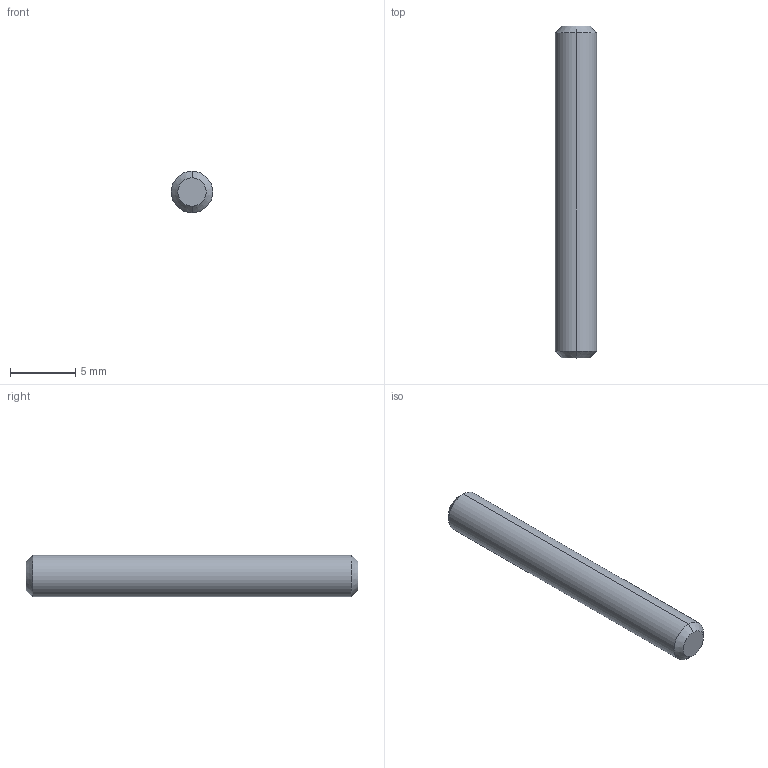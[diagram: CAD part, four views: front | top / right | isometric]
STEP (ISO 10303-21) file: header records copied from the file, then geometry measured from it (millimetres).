
FILE_DESCRIPTION (( 'STEP AP203' ), '1' );
FILE_NAME ('DP9-1000.step', '2014-02-28T00:06:45', ( '' ), ( '' ), 'SwSTEP 2.0', 'SolidWorks 2009', '' );
FILE_SCHEMA (( 'CONFIG_CONTROL_DESIGN' ));
Length unit declared in the file: inch
Products named in the file (1): DP9-1000
Bounding box: 3.18 x 25.4 x 3.18 mm (x, y, z)
Volume: 199.4 mm3; surface area: 263 mm2
Topology: 1 solids, 1 shells, 8 faces, 14 edges, 8 vertices
Faces by surface type: cone 4, cylinder 2, plane 2
Entity records: 273 total; most frequent: DIRECTION 40, CARTESIAN_POINT 31, ORIENTED_EDGE 28, AXIS2_PLACEMENT_3D 17, EDGE_CURVE 14, PERSON_AND_ORGANIZATION 8, VERTEX_POINT 8, ADVANCED_FACE 8
